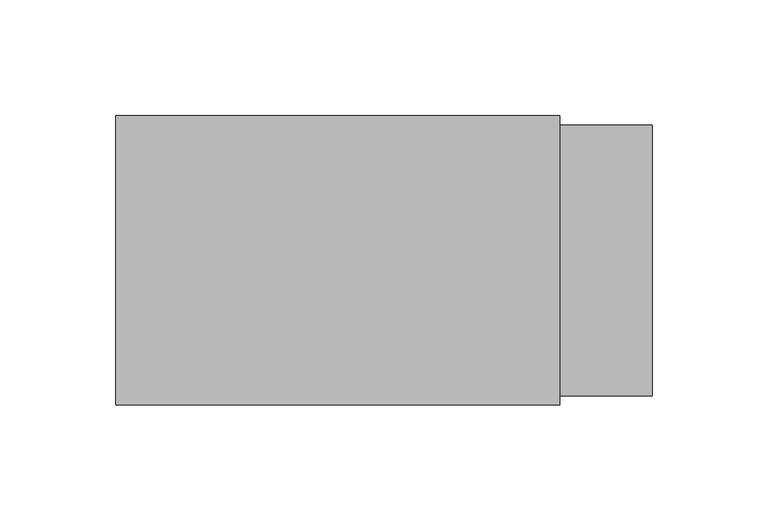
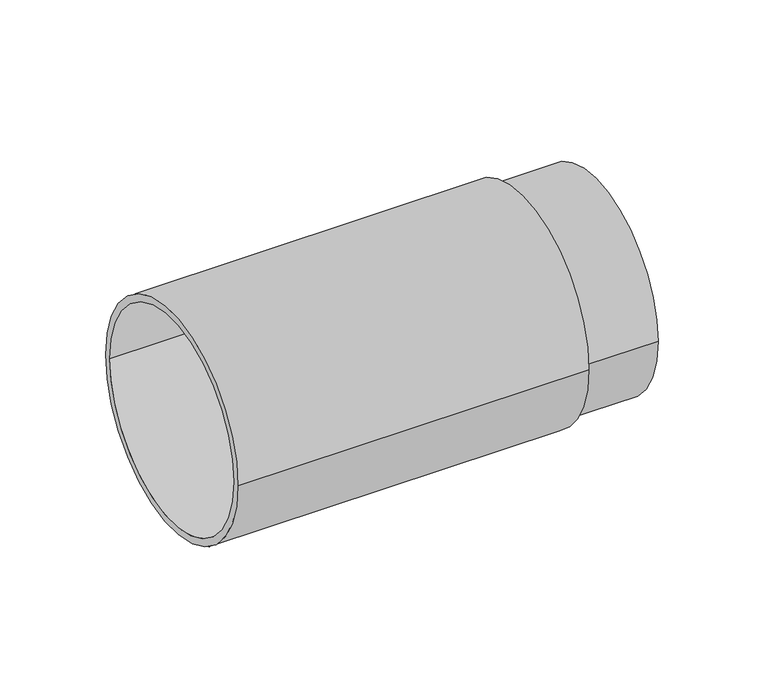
"""IFC4 building model written with IfcOpenShell, lengths in millimetres: duct fitting geometry, NLRS_57_DUF_UN_terminal extension_M&G : 117/125mm."""

from ifc_helpers import new_model, si_unit, point, frame, origin, origin_2d, place, context, project, spatial, circle_curve, trimmed, segment, composite_curve, outline, extrude, source, transform, mapped, element, save


def duct_fitting_766c4896(model_context):
    return source(origin(), model_context, "Body", "SweptSolid", [
        extrude(outline(composite_curve([segment(trimmed(circle_curve(origin_2d(), 58.5), [point((-58.5, 0.0))], [point((58.5, 0.0))], False, "CARTESIAN"), True, "CONTINUOUS"), segment(trimmed(circle_curve(origin_2d(), 58.5), [point((58.5, 0.0))], [point((-58.5, 0.0))], False, "CARTESIAN"), True, "CONTINUOUS")], self_intersect=False)), frame((191.6207349, 0.0, 0.0), z_axis=(1.0, 0.0, 0.0), x_axis=(0.0, 1.0, 0.0)), (0.0, 0.0, 1.0), 40.0),
        extrude(outline(composite_curve([segment(trimmed(circle_curve(origin_2d(), 62.5), [point((-62.5, 0.0))], [point((62.5, 0.0))], False, "CARTESIAN"), True, "CONTINUOUS"), segment(trimmed(circle_curve(origin_2d(), 62.5), [point((62.5, 0.0))], [point((-62.5, 0.0))], False, "CARTESIAN"), True, "CONTINUOUS")], self_intersect=False), holes=[composite_curve([segment(trimmed(circle_curve(origin_2d(), 58.5), [point((-58.5, 0.0))], [point((58.5, 0.0))], True, "CARTESIAN"), True, "CONTINUOUS"), segment(trimmed(circle_curve(origin_2d(), 58.5), [point((58.5, 0.0))], [point((-58.5, 0.0))], True, "CARTESIAN"), True, "CONTINUOUS")], self_intersect=False)]), frame((0.0, 0.0, 0.0), z_axis=(1.0, 0.0, 0.0), x_axis=(0.0, 1.0, 0.0)), (0.0, 0.0, 1.0), 191.6207349),
    ])


if __name__ == "__main__":
    model = new_model("IFC4")
    model_context = context("Model", 3, world=origin())
    ifc_project = project(units=[si_unit("LENGTHUNIT", "METRE", prefix="MILLI")], contexts=[model_context])
    site = spatial("IfcSite", under=ifc_project)
    building = spatial("IfcBuilding", under=site)
    placement = place(None, origin())
    duct_fitting_shape = duct_fitting_766c4896(model_context)
    element("IfcDuctFitting", 1, ObjectType="NLRS_57_DUF_UN_terminal extension_M&G : 117/125mm", at=placement, inside=building, context=model_context, shape_type="MappedRepresentation", body=[
        mapped(duct_fitting_shape, transform((0.0, 0.0, 0.0), x_axis=(1.0, 0.0, 0.0), y_axis=(0.0, 1.0, 0.0), z_axis=(0.0, 0.0, 1.0))),
    ])
    save(model, "model.ifc")
